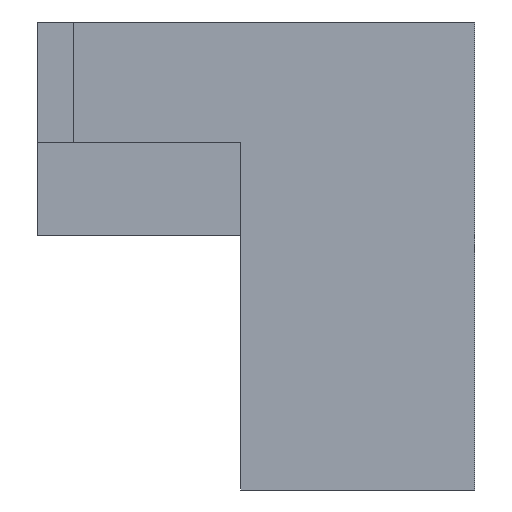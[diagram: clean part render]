
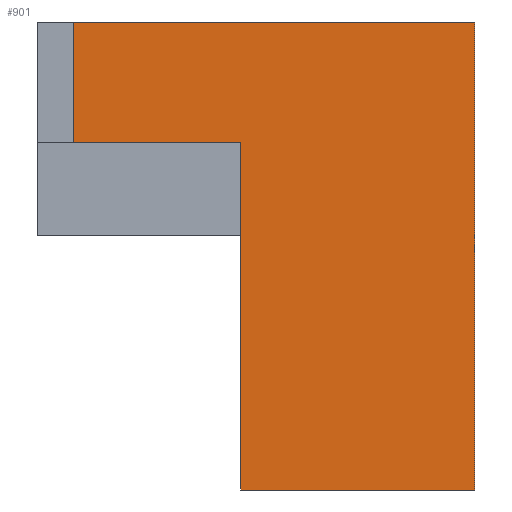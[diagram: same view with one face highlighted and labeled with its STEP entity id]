
A CAD part, front view. The second image highlights one B-rep face of the part: STEP entity #901.
In plain terms, the highlighted planar face has unit normal (0, -1, 0).
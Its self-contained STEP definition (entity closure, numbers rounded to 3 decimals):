
#32 = PLANE('',#33);
#33 = AXIS2_PLACEMENT_3D('',#34,#35,#36);
#34 = CARTESIAN_POINT('',(-30.5,-26.8,8.6));
#35 = DIRECTION('',(0.,0.,1.));
#36 = DIRECTION('',(1.,0.,0.));
#195 = VERTEX_POINT('',#196);
#196 = CARTESIAN_POINT('',(-32.5,0.2,8.6));
#210 = PLANE('',#211);
#211 = AXIS2_PLACEMENT_3D('',#212,#213,#214);
#212 = CARTESIAN_POINT('',(-32.5,0.2,1.6));
#213 = DIRECTION('',(-1.,-0.,-0.));
#214 = DIRECTION('',(0.,0.,-1.));
#221 = EDGE_CURVE('',#195,#222,#224,.T.);
#222 = VERTEX_POINT('',#223);
#223 = CARTESIAN_POINT('',(-38.5,0.2,8.6));
#224 = SURFACE_CURVE('',#225,(#229,#236),.PCURVE_S1.);
#225 = LINE('',#226,#227);
#226 = CARTESIAN_POINT('',(-31.5,0.2,8.6));
#227 = VECTOR('',#228,1.);
#228 = DIRECTION('',(-1.,0.,0.));
#229 = PCURVE('',#32,#230);
#230 = DEFINITIONAL_REPRESENTATION('',(#231),#235);
#231 = LINE('',#232,#233);
#232 = CARTESIAN_POINT('',(-1.,27.));
#233 = VECTOR('',#234,1.);
#234 = DIRECTION('',(-1.,0.));
#235 = ( GEOMETRIC_REPRESENTATION_CONTEXT(2) 
PARAMETRIC_REPRESENTATION_CONTEXT() REPRESENTATION_CONTEXT('2D SPACE',''
  ) );
#236 = PCURVE('',#237,#242);
#237 = PLANE('',#238);
#238 = AXIS2_PLACEMENT_3D('',#239,#240,#241);
#239 = CARTESIAN_POINT('',(-32.5,0.2,1.6));
#240 = DIRECTION('',(0.,1.,0.));
#241 = DIRECTION('',(0.,0.,-1.));
#242 = DEFINITIONAL_REPRESENTATION('',(#243),#246);
#243 = B_SPLINE_CURVE_WITH_KNOTS('',1,(#244,#245),.UNSPECIFIED.,.F.,.F.,
  (2,2),(1.,7.),.PIECEWISE_BEZIER_KNOTS.);
#244 = CARTESIAN_POINT('',(-7.,0.));
#245 = CARTESIAN_POINT('',(-7.,6.));
#246 = ( GEOMETRIC_REPRESENTATION_CONTEXT(2) 
PARAMETRIC_REPRESENTATION_CONTEXT() REPRESENTATION_CONTEXT('2D SPACE',''
  ) );
#264 = PLANE('',#265);
#265 = AXIS2_PLACEMENT_3D('',#266,#267,#268);
#266 = CARTESIAN_POINT('',(-38.5,0.2,1.6));
#267 = DIRECTION('',(-1.,-0.,-0.));
#268 = DIRECTION('',(0.,0.,-1.));
#499 = PLANE('',#500);
#500 = AXIS2_PLACEMENT_3D('',#501,#502,#503);
#501 = CARTESIAN_POINT('',(-48.,-25.1,6.8));
#502 = DIRECTION('',(0.,0.,-1.));
#503 = DIRECTION('',(1.,0.,0.));
#789 = EDGE_CURVE('',#790,#222,#792,.T.);
#790 = VERTEX_POINT('',#791);
#791 = CARTESIAN_POINT('',(-38.5,0.2,6.8));
#792 = SURFACE_CURVE('',#793,(#797,#804),.PCURVE_S1.);
#793 = LINE('',#794,#795);
#794 = CARTESIAN_POINT('',(-38.5,0.2,1.6));
#795 = VECTOR('',#796,1.);
#796 = DIRECTION('',(0.,0.,1.));
#797 = PCURVE('',#264,#798);
#798 = DEFINITIONAL_REPRESENTATION('',(#799),#803);
#799 = LINE('',#800,#801);
#800 = CARTESIAN_POINT('',(0.,0.));
#801 = VECTOR('',#802,1.);
#802 = DIRECTION('',(-1.,0.));
#803 = ( GEOMETRIC_REPRESENTATION_CONTEXT(2) 
PARAMETRIC_REPRESENTATION_CONTEXT() REPRESENTATION_CONTEXT('2D SPACE',''
  ) );
#804 = PCURVE('',#237,#805);
#805 = DEFINITIONAL_REPRESENTATION('',(#806),#810);
#806 = LINE('',#807,#808);
#807 = CARTESIAN_POINT('',(0.,6.));
#808 = VECTOR('',#809,1.);
#809 = DIRECTION('',(-1.,0.));
#810 = ( GEOMETRIC_REPRESENTATION_CONTEXT(2) 
PARAMETRIC_REPRESENTATION_CONTEXT() REPRESENTATION_CONTEXT('2D SPACE',''
  ) );
#901 = ADVANCED_FACE('',(#902),#237,.F.);
#902 = FACE_BOUND('',#903,.F.);
#903 = EDGE_LOOP('',(#904,#927,#928,#929,#952,#980));
#904 = ORIENTED_EDGE('',*,*,#905,.F.);
#905 = EDGE_CURVE('',#790,#906,#908,.T.);
#906 = VERTEX_POINT('',#907);
#907 = CARTESIAN_POINT('',(-36.,0.2,6.8));
#908 = SURFACE_CURVE('',#909,(#913,#920),.PCURVE_S1.);
#909 = LINE('',#910,#911);
#910 = CARTESIAN_POINT('',(-40.25,0.2,6.8));
#911 = VECTOR('',#912,1.);
#912 = DIRECTION('',(1.,-0.,0.));
#913 = PCURVE('',#237,#914);
#914 = DEFINITIONAL_REPRESENTATION('',(#915),#919);
#915 = LINE('',#916,#917);
#916 = CARTESIAN_POINT('',(-5.2,7.75));
#917 = VECTOR('',#918,1.);
#918 = DIRECTION('',(0.,-1.));
#919 = ( GEOMETRIC_REPRESENTATION_CONTEXT(2) 
PARAMETRIC_REPRESENTATION_CONTEXT() REPRESENTATION_CONTEXT('2D SPACE',''
  ) );
#920 = PCURVE('',#499,#921);
#921 = DEFINITIONAL_REPRESENTATION('',(#922),#926);
#922 = LINE('',#923,#924);
#923 = CARTESIAN_POINT('',(7.75,-25.3));
#924 = VECTOR('',#925,1.);
#925 = DIRECTION('',(1.,0.));
#926 = ( GEOMETRIC_REPRESENTATION_CONTEXT(2) 
PARAMETRIC_REPRESENTATION_CONTEXT() REPRESENTATION_CONTEXT('2D SPACE',''
  ) );
#927 = ORIENTED_EDGE('',*,*,#789,.T.);
#928 = ORIENTED_EDGE('',*,*,#221,.F.);
#929 = ORIENTED_EDGE('',*,*,#930,.F.);
#930 = EDGE_CURVE('',#931,#195,#933,.T.);
#931 = VERTEX_POINT('',#932);
#932 = CARTESIAN_POINT('',(-32.5,0.2,1.6));
#933 = SURFACE_CURVE('',#934,(#938,#945),.PCURVE_S1.);
#934 = LINE('',#935,#936);
#935 = CARTESIAN_POINT('',(-32.5,0.2,1.6));
#936 = VECTOR('',#937,1.);
#937 = DIRECTION('',(0.,0.,1.));
#938 = PCURVE('',#237,#939);
#939 = DEFINITIONAL_REPRESENTATION('',(#940),#944);
#940 = LINE('',#941,#942);
#941 = CARTESIAN_POINT('',(0.,0.));
#942 = VECTOR('',#943,1.);
#943 = DIRECTION('',(-1.,0.));
#944 = ( GEOMETRIC_REPRESENTATION_CONTEXT(2) 
PARAMETRIC_REPRESENTATION_CONTEXT() REPRESENTATION_CONTEXT('2D SPACE',''
  ) );
#945 = PCURVE('',#210,#946);
#946 = DEFINITIONAL_REPRESENTATION('',(#947),#951);
#947 = LINE('',#948,#949);
#948 = CARTESIAN_POINT('',(0.,0.));
#949 = VECTOR('',#950,1.);
#950 = DIRECTION('',(-1.,0.));
#951 = ( GEOMETRIC_REPRESENTATION_CONTEXT(2) 
PARAMETRIC_REPRESENTATION_CONTEXT() REPRESENTATION_CONTEXT('2D SPACE',''
  ) );
#952 = ORIENTED_EDGE('',*,*,#953,.T.);
#953 = EDGE_CURVE('',#931,#954,#956,.T.);
#954 = VERTEX_POINT('',#955);
#955 = CARTESIAN_POINT('',(-36.,0.2,1.6));
#956 = SURFACE_CURVE('',#957,(#961,#968),.PCURVE_S1.);
#957 = LINE('',#958,#959);
#958 = CARTESIAN_POINT('',(-32.5,0.2,1.6));
#959 = VECTOR('',#960,1.);
#960 = DIRECTION('',(-1.,-0.,-0.));
#961 = PCURVE('',#237,#962);
#962 = DEFINITIONAL_REPRESENTATION('',(#963),#967);
#963 = LINE('',#964,#965);
#964 = CARTESIAN_POINT('',(0.,0.));
#965 = VECTOR('',#966,1.);
#966 = DIRECTION('',(0.,1.));
#967 = ( GEOMETRIC_REPRESENTATION_CONTEXT(2) 
PARAMETRIC_REPRESENTATION_CONTEXT() REPRESENTATION_CONTEXT('2D SPACE',''
  ) );
#968 = PCURVE('',#969,#974);
#969 = PLANE('',#970);
#970 = AXIS2_PLACEMENT_3D('',#971,#972,#973);
#971 = CARTESIAN_POINT('',(-32.5,0.2,1.6));
#972 = DIRECTION('',(0.,0.,1.));
#973 = DIRECTION('',(1.,0.,-0.));
#974 = DEFINITIONAL_REPRESENTATION('',(#975),#979);
#975 = LINE('',#976,#977);
#976 = CARTESIAN_POINT('',(0.,0.));
#977 = VECTOR('',#978,1.);
#978 = DIRECTION('',(-1.,0.));
#979 = ( GEOMETRIC_REPRESENTATION_CONTEXT(2) 
PARAMETRIC_REPRESENTATION_CONTEXT() REPRESENTATION_CONTEXT('2D SPACE',''
  ) );
#980 = ORIENTED_EDGE('',*,*,#981,.T.);
#981 = EDGE_CURVE('',#954,#906,#982,.T.);
#982 = SURFACE_CURVE('',#983,(#987,#994),.PCURVE_S1.);
#983 = LINE('',#984,#985);
#984 = CARTESIAN_POINT('',(-36.,0.2,4.2));
#985 = VECTOR('',#986,1.);
#986 = DIRECTION('',(0.,0.,1.));
#987 = PCURVE('',#237,#988);
#988 = DEFINITIONAL_REPRESENTATION('',(#989),#993);
#989 = LINE('',#990,#991);
#990 = CARTESIAN_POINT('',(-2.6,3.5));
#991 = VECTOR('',#992,1.);
#992 = DIRECTION('',(-1.,0.));
#993 = ( GEOMETRIC_REPRESENTATION_CONTEXT(2) 
PARAMETRIC_REPRESENTATION_CONTEXT() REPRESENTATION_CONTEXT('2D SPACE',''
  ) );
#994 = PCURVE('',#995,#1000);
#995 = PLANE('',#996);
#996 = AXIS2_PLACEMENT_3D('',#997,#998,#999);
#997 = CARTESIAN_POINT('',(-36.,-25.1,6.8));
#998 = DIRECTION('',(1.,0.,0.));
#999 = DIRECTION('',(0.,0.,-1.));
#1000 = DEFINITIONAL_REPRESENTATION('',(#1001),#1005);
#1001 = LINE('',#1002,#1003);
#1002 = CARTESIAN_POINT('',(2.6,25.3));
#1003 = VECTOR('',#1004,1.);
#1004 = DIRECTION('',(-1.,0.));
#1005 = ( GEOMETRIC_REPRESENTATION_CONTEXT(2) 
PARAMETRIC_REPRESENTATION_CONTEXT() REPRESENTATION_CONTEXT('2D SPACE',''
  ) );
